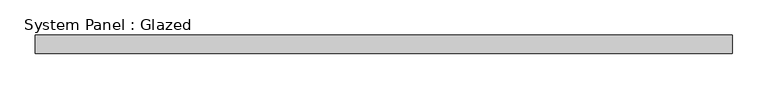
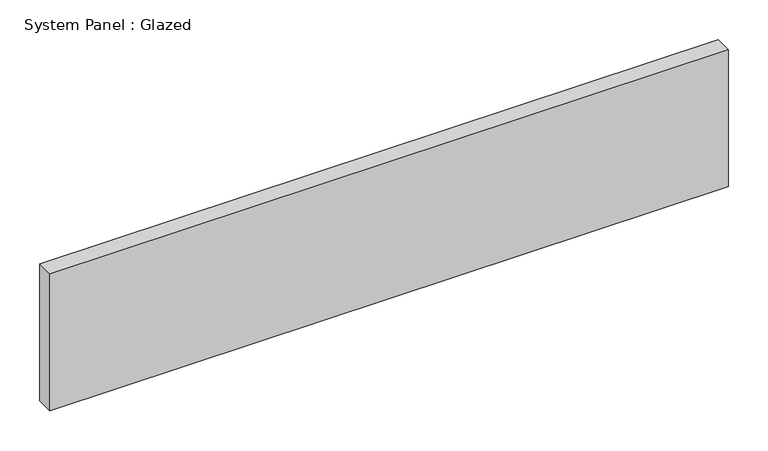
"""IFC4 building model written with IfcOpenShell, lengths in millimetres: plate geometry, System Panel : Glazed."""

from ifc_helpers import new_model, si_unit, origin, origin_with_axes, place, context, project, spatial, polyline, outline, extrude, source, transform, mapped, element, save


def system_panel_glazed_f51451db(model_context):
    return source(origin(), model_context, "Body", "SweptSolid", [
        extrude(outline(polyline([(490.9910714, 19.05), (-490.9910714, 19.05), (-490.9910714, 44.45), (490.9910714, 44.45), (490.9910714, 19.05)])), origin_with_axes(), (0.0, 0.0, 1.0), 209.55),
    ])


if __name__ == "__main__":
    model = new_model("IFC4")
    model_context = context("Model", 3, world=origin())
    ifc_project = project(units=[si_unit("LENGTHUNIT", "METRE", prefix="MILLI")], contexts=[model_context])
    site = spatial("IfcSite", under=ifc_project)
    building = spatial("IfcBuilding", under=site)
    placement = place(None, origin())
    system_panel_glazed_shape = system_panel_glazed_f51451db(model_context)
    element("IfcPlate", 1, ObjectType="System Panel : Glazed", at=placement, inside=building, context=model_context, shape_type="MappedRepresentation", body=[
        mapped(system_panel_glazed_shape, transform((0.0, 0.0, 0.0), x_axis=(1.0, 0.0, 0.0), y_axis=(0.0, 1.0, 0.0), z_axis=(0.0, 0.0, 1.0))),
    ])
    save(model, "model.ifc")
